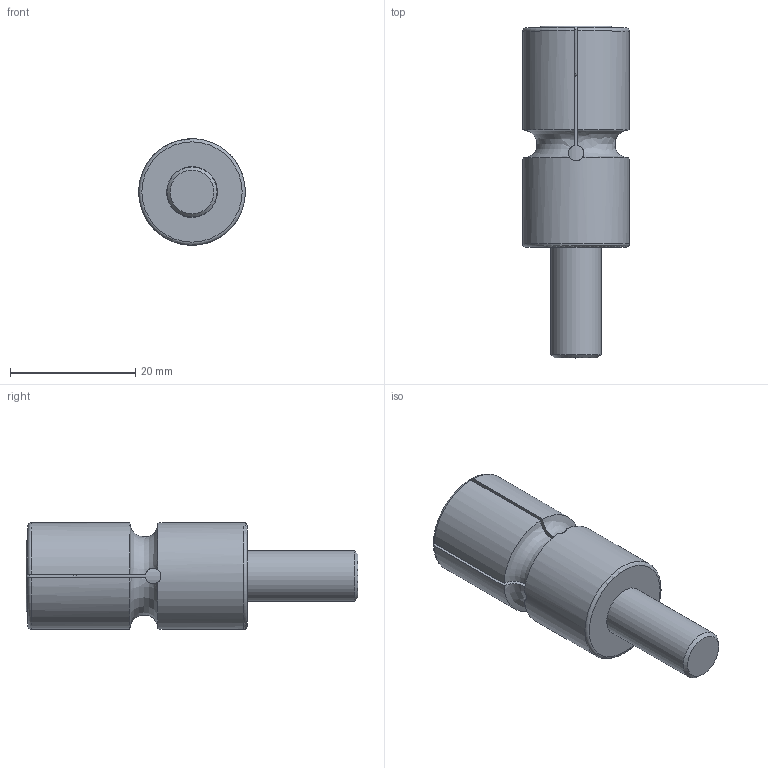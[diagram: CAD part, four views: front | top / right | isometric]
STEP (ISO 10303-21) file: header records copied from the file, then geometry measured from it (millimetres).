
FILE_DESCRIPTION(/* description */ (''),/* implementation_level */ '2;1');
FILE_NAME(/* name */ '17MM扩张销.stp',/* time_stamp */ '2023-11-24T02:05:12+08:00',/* author */ (''),/* organization */ (''),/* preprocessor_version */ 'ST-DEVELOPER v16',/* originating_system */ 'SIEMENS PLM Software NX 10.0',/* authorisation */ '');
FILE_SCHEMA (('CONFIG_CONTROL_DESIGN'));
Length unit declared in the file: millimetre
Products named in the file (1): 16MM扩张销_stp
Bounding box: 17 x 53 x 17 mm (x, y, z)
Volume: 8083.6 mm3; surface area: 5343.8 mm2
Topology: 2 solids, 2 shells, 57 faces, 148 edges, 96 vertices
Faces by surface type: plane 23, cylinder 17, torus 7, cone 6, bspline 4
Full cylindrical faces by diameter (mm): 8 x1, 8.1 x1, 17 x1
Entity records: 3482 total; most frequent: CARTESIAN_POINT 2140, ORIENTED_EDGE 272, DIRECTION 228, EDGE_CURVE 136, VERTEX_POINT 92, AXIS2_PLACEMENT_3D 86, EDGE_LOOP 68, ADVANCED_FACE 57
